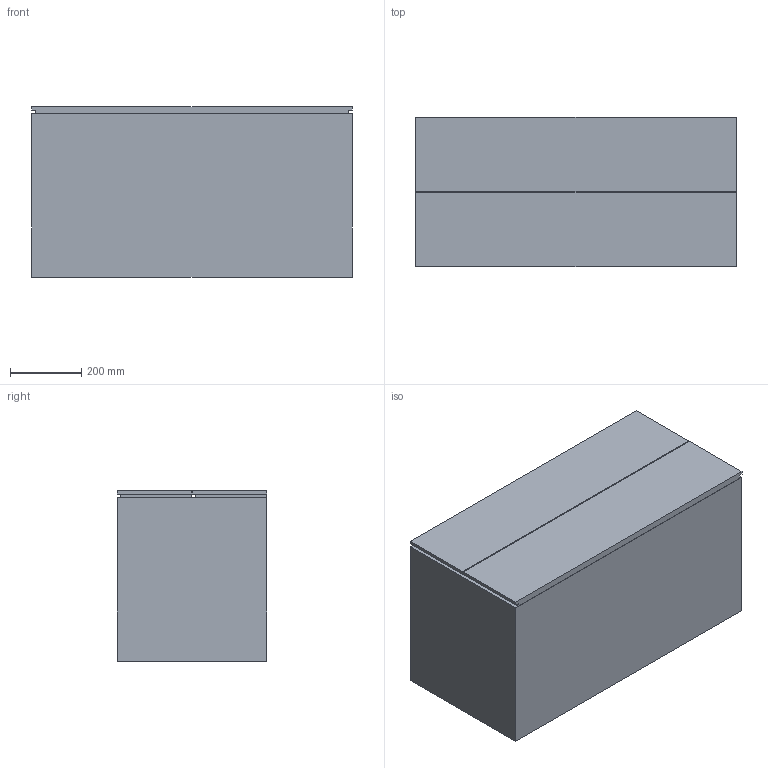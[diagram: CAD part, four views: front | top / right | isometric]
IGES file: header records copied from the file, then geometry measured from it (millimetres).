
Start section: SolidWorks IGES file using NURBS representation for surfaces
Global section: file name: G:\VICCARBE\PRODUCTOS\20-DO IT\04-MODELADOS (PLANOS)\SOLIDWORKS\Contenedores\IGES\VICCARBE_DO03.IGS; native system: SolidWorks 2009; preprocessor: SolidWorks 2009; author: RUBEN; date: 111102.121337; units: millimetre
Bounding box: 900 x 420 x 479 mm (x, y, z)
Surface area: 3897084 mm2 (no closed solid volume)
Topology: 0 solids, 0 shells, 31 faces, 144 edges, 144 vertices
Faces by surface type: bspline 31
